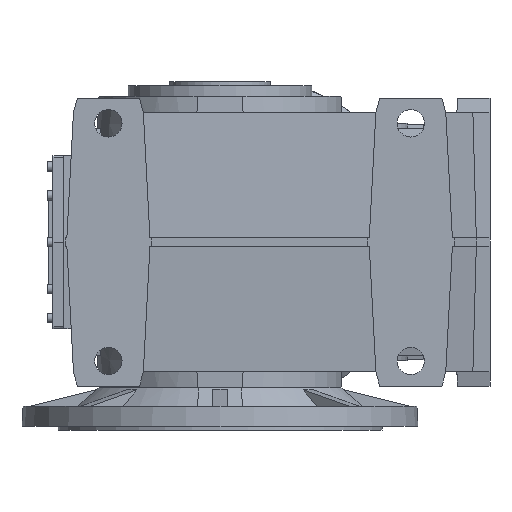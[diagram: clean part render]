
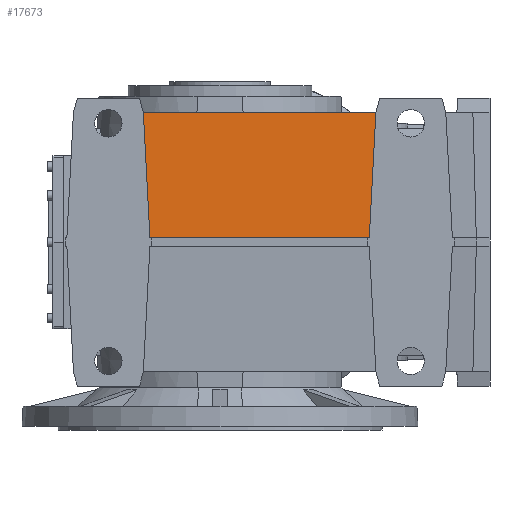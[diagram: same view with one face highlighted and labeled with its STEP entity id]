
A CAD part, left-side view. The second image highlights one B-rep face of the part: STEP entity #17673.
In plain terms, the highlighted planar face has unit normal (-0.999, 0, 0.052) as drawn and (0.999, 0, -0.052) by its records, which use the part's own axes.
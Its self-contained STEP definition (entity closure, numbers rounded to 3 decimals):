
#1442=ORIENTED_EDGE('',*,*,#6610,.F.);
#1443=ORIENTED_EDGE('',*,*,#6611,.F.);
#1444=ORIENTED_EDGE('',*,*,#6612,.F.);
#1445=ORIENTED_EDGE('',*,*,#6613,.F.);
#6610=EDGE_CURVE('',#9191,#9192,#10983,.T.);
#6611=EDGE_CURVE('',#9193,#9191,#10984,.T.);
#6612=EDGE_CURVE('',#9194,#9193,#10985,.T.);
#6613=EDGE_CURVE('',#9192,#9194,#10986,.T.);
#9191=VERTEX_POINT('',#25724);
#9192=VERTEX_POINT('',#25725);
#9193=VERTEX_POINT('',#25727);
#9194=VERTEX_POINT('',#25729);
#10983=LINE('',#25723,#12609);
#10984=LINE('',#25726,#12610);
#10985=LINE('',#25728,#12611);
#10986=LINE('',#25730,#12612);
#12609=VECTOR('',#20557,1000.);
#12610=VECTOR('',#20558,1000.);
#12611=VECTOR('',#20559,1000.);
#12612=VECTOR('',#20560,1000.);
#14192=EDGE_LOOP('',(#1442,#1443,#1444,#1445));
#15554=FACE_BOUND('',#14192,.T.);
#16935=PLANE('',#18767);
#17673=ADVANCED_FACE('',(#15554),#16935,.F.);
#18767=AXIS2_PLACEMENT_3D('',#25722,#20555,#20556);
#20555=DIRECTION('',(-0.999,0.,0.052));
#20556=DIRECTION('',(0.052,0.,0.999));
#20557=DIRECTION('',(-0.052,0.052,-0.997));
#20558=DIRECTION('',(0.,1.,0.));
#20559=DIRECTION('',(0.052,0.052,0.997));
#20560=DIRECTION('',(0.,-1.,0.));
#25722=CARTESIAN_POINT('',(636.821,250.,0.));
#25723=CARTESIAN_POINT('',(636.399,144.441,-8.059));
#25724=CARTESIAN_POINT('',(636.507,144.333,-6.));
#25725=CARTESIAN_POINT('',(627.388,153.452,-180.));
#25726=CARTESIAN_POINT('',(636.507,-160.333,-6.));
#25727=CARTESIAN_POINT('',(636.507,-160.333,-6.));
#25728=CARTESIAN_POINT('',(627.305,-169.535,-181.584));
#25729=CARTESIAN_POINT('',(627.388,-169.452,-180.));
#25730=CARTESIAN_POINT('',(627.388,250.,-180.));
